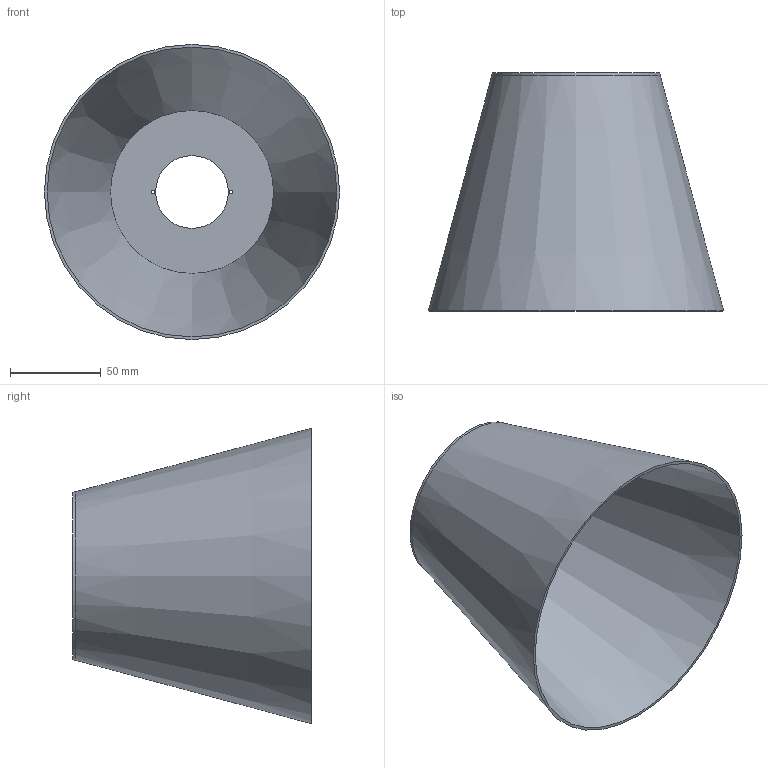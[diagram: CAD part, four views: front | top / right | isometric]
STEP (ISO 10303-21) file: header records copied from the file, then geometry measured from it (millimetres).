
FILE_DESCRIPTION(('STEP AP203'), '1');
FILE_NAME('main-lamp', '', ('UNSPECIFIED'), ('UNSPECIFIED'), 'ASCON STEP Converter 1.3', 'ASCON Math Kernel', '');
FILE_SCHEMA(('CONFIG_CONTROL_DESIGN'));
Length unit declared in the file: millimetre
Bounding box: 163 x 131.5 x 163 mm (x, y, z)
Volume: 85738 mm3; surface area: 118976.6 mm2
Topology: 1 solids, 1 shells, 9 faces, 17 edges, 11 vertices
Faces by surface type: plane 3, cylinder 3, cone 3
Full cylindrical faces by diameter (mm): 2.2 x2, 40.159 x1
Entity records: 332 total; most frequent: DIRECTION 42, CARTESIAN_POINT 32, EDGE_LOOP 22, ORIENTED_EDGE 22, AXIS2_PLACEMENT_3D 21, FACE_OUTER_BOUND 12, EDGE_CURVE 11, VERTEX_POINT 11
